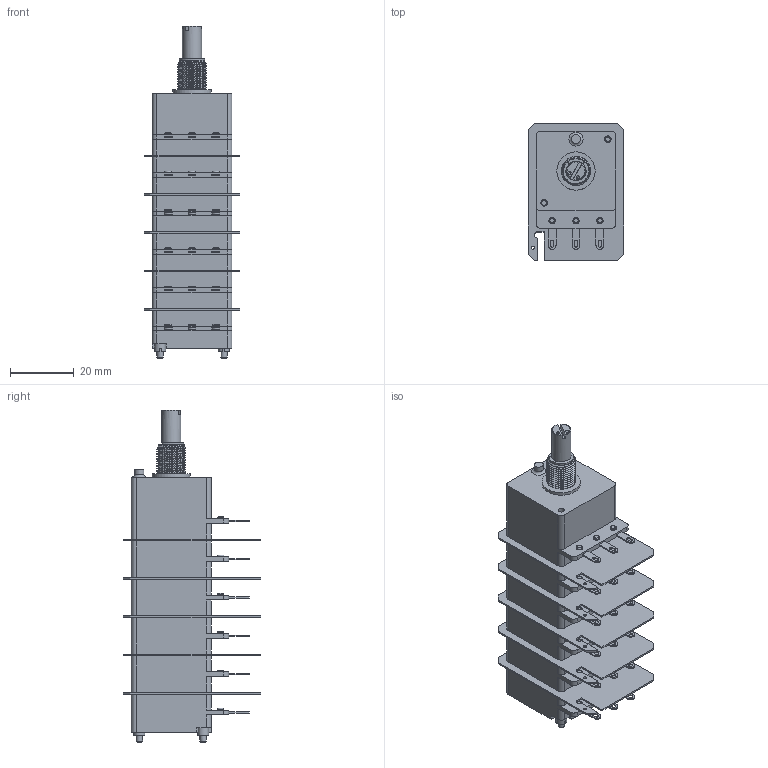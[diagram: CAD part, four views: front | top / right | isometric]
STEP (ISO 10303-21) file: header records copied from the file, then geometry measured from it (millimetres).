
FILE_DESCRIPTION(('FreeCAD Model'),'2;1');
FILE_NAME('Open CASCADE Shape Model','2026-07-15T10:49:20',(''),(''), 'Open CASCADE STEP processor 7.8','FreeCAD','Unknown');
FILE_SCHEMA(('AUTOMOTIVE_DESIGN { 1 0 10303 214 1 1 1 1 }'));
Length unit declared in the file: millimetre
Products named in the file (1): 6CP25XX-S-6SM20
Bounding box: 30 x 43 x 104 mm (x, y, z)
Volume: 53040.6 mm3; surface area: 22180.9 mm2
Topology: 1 solids, 46 shells, 698 faces, 1596 edges, 1056 vertices
Faces by surface type: plane 404, cylinder 226, bspline 38, torus 22, cone 6, sphere 2
Full cylindrical faces by diameter (mm): 1 x5, 1.9 x2, 2 x46, 2.2 x32, 2.5 x4, 2.8 x1, 3.5 x2, 4.4 x1, 4.5 x6, 5.4 x1, 6 x1, 6.05 x1, 8 x1, 9 x5, 12 x1
Entity records: 25652 total; most frequent: CARTESIAN_POINT 7729, DIRECTION 3382, ORIENTED_EDGE 3186, EDGE_CURVE 1593, AXIS2_PLACEMENT_3D 1246, VERTEX_POINT 1056, LINE 890, VECTOR 890
